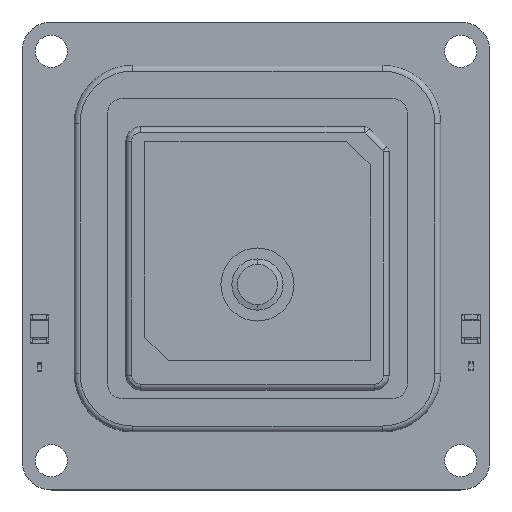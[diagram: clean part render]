
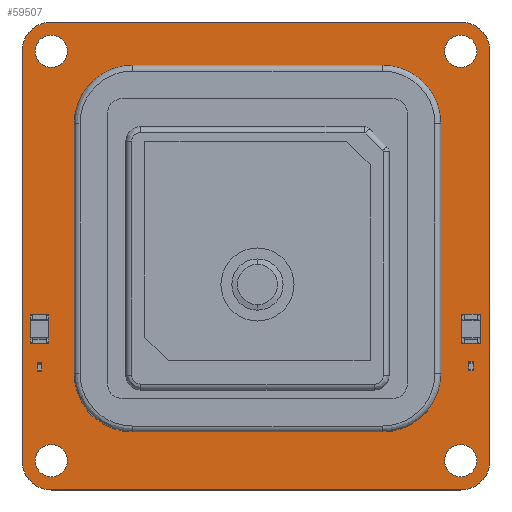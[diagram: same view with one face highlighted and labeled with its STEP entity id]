
A CAD part, top view. The second image highlights one B-rep face of the part: STEP entity #59507.
In plain terms, the highlighted planar face has unit normal (0, 0, 1).
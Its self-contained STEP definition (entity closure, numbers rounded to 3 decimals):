
#59303 = VERTEX_POINT('',#59304);
#59304 = CARTESIAN_POINT('',(32.,34.,1.6));
#59310 = EDGE_CURVE('',#59303,#59311,#59313,.T.);
#59311 = VERTEX_POINT('',#59312);
#59312 = CARTESIAN_POINT('',(34.,32.,1.6));
#59313 = CIRCLE('',#59314,2.);
#59314 = AXIS2_PLACEMENT_3D('',#59315,#59316,#59317);
#59315 = CARTESIAN_POINT('',(32.,32.,1.6));
#59316 = DIRECTION('',(0.,0.,-1.));
#59317 = DIRECTION('',(0.,1.,0.));
#59345 = VERTEX_POINT('',#59346);
#59346 = CARTESIAN_POINT('',(4.,34.,1.6));
#59352 = EDGE_CURVE('',#59345,#59303,#59353,.T.);
#59353 = LINE('',#59354,#59355);
#59354 = CARTESIAN_POINT('',(4.,34.,1.6));
#59355 = VECTOR('',#59356,1.);
#59356 = DIRECTION('',(1.,0.,0.));
#59374 = EDGE_CURVE('',#59311,#59375,#59377,.T.);
#59375 = VERTEX_POINT('',#59376);
#59376 = CARTESIAN_POINT('',(34.,4.,1.6));
#59377 = LINE('',#59378,#59379);
#59378 = CARTESIAN_POINT('',(34.,32.,1.6));
#59379 = VECTOR('',#59380,1.);
#59380 = DIRECTION('',(0.,-1.,0.));
#59507 = ADVANCED_FACE('',(#59508,#59554,#59565,#59576,#59587,#59598),
  #59609,.T.);
#59508 = FACE_BOUND('',#59509,.T.);
#59509 = EDGE_LOOP('',(#59510,#59511,#59512,#59521,#59529,#59538,#59546,
    #59553));
#59510 = ORIENTED_EDGE('',*,*,#59310,.F.);
#59511 = ORIENTED_EDGE('',*,*,#59352,.F.);
#59512 = ORIENTED_EDGE('',*,*,#59513,.F.);
#59513 = EDGE_CURVE('',#59514,#59345,#59516,.T.);
#59514 = VERTEX_POINT('',#59515);
#59515 = CARTESIAN_POINT('',(2.,32.,1.6));
#59516 = CIRCLE('',#59517,2.);
#59517 = AXIS2_PLACEMENT_3D('',#59518,#59519,#59520);
#59518 = CARTESIAN_POINT('',(4.,32.,1.6));
#59519 = DIRECTION('',(0.,0.,-1.));
#59520 = DIRECTION('',(-1.,0.,-0.));
#59521 = ORIENTED_EDGE('',*,*,#59522,.F.);
#59522 = EDGE_CURVE('',#59523,#59514,#59525,.T.);
#59523 = VERTEX_POINT('',#59524);
#59524 = CARTESIAN_POINT('',(2.,4.,1.6));
#59525 = LINE('',#59526,#59527);
#59526 = CARTESIAN_POINT('',(2.,4.,1.6));
#59527 = VECTOR('',#59528,1.);
#59528 = DIRECTION('',(0.,1.,0.));
#59529 = ORIENTED_EDGE('',*,*,#59530,.F.);
#59530 = EDGE_CURVE('',#59531,#59523,#59533,.T.);
#59531 = VERTEX_POINT('',#59532);
#59532 = CARTESIAN_POINT('',(4.,2.,1.6));
#59533 = CIRCLE('',#59534,2.);
#59534 = AXIS2_PLACEMENT_3D('',#59535,#59536,#59537);
#59535 = CARTESIAN_POINT('',(4.,4.,1.6));
#59536 = DIRECTION('',(0.,0.,-1.));
#59537 = DIRECTION('',(0.,-1.,0.));
#59538 = ORIENTED_EDGE('',*,*,#59539,.F.);
#59539 = EDGE_CURVE('',#59540,#59531,#59542,.T.);
#59540 = VERTEX_POINT('',#59541);
#59541 = CARTESIAN_POINT('',(32.,2.,1.6));
#59542 = LINE('',#59543,#59544);
#59543 = CARTESIAN_POINT('',(32.,2.,1.6));
#59544 = VECTOR('',#59545,1.);
#59545 = DIRECTION('',(-1.,0.,0.));
#59546 = ORIENTED_EDGE('',*,*,#59547,.F.);
#59547 = EDGE_CURVE('',#59375,#59540,#59548,.T.);
#59548 = CIRCLE('',#59549,2.);
#59549 = AXIS2_PLACEMENT_3D('',#59550,#59551,#59552);
#59550 = CARTESIAN_POINT('',(32.,4.,1.6));
#59551 = DIRECTION('',(0.,0.,-1.));
#59552 = DIRECTION('',(1.,0.,0.));
#59553 = ORIENTED_EDGE('',*,*,#59374,.F.);
#59554 = FACE_BOUND('',#59555,.T.);
#59555 = EDGE_LOOP('',(#59556));
#59556 = ORIENTED_EDGE('',*,*,#59557,.T.);
#59557 = EDGE_CURVE('',#59558,#59558,#59560,.T.);
#59558 = VERTEX_POINT('',#59559);
#59559 = CARTESIAN_POINT('',(4.,2.9,1.6));
#59560 = CIRCLE('',#59561,1.1);
#59561 = AXIS2_PLACEMENT_3D('',#59562,#59563,#59564);
#59562 = CARTESIAN_POINT('',(4.,4.,1.6));
#59563 = DIRECTION('',(-0.,0.,-1.));
#59564 = DIRECTION('',(-0.,-1.,0.));
#59565 = FACE_BOUND('',#59566,.T.);
#59566 = EDGE_LOOP('',(#59567));
#59567 = ORIENTED_EDGE('',*,*,#59568,.T.);
#59568 = EDGE_CURVE('',#59569,#59569,#59571,.T.);
#59569 = VERTEX_POINT('',#59570);
#59570 = CARTESIAN_POINT('',(32.,2.9,1.6));
#59571 = CIRCLE('',#59572,1.1);
#59572 = AXIS2_PLACEMENT_3D('',#59573,#59574,#59575);
#59573 = CARTESIAN_POINT('',(32.,4.,1.6));
#59574 = DIRECTION('',(-0.,0.,-1.));
#59575 = DIRECTION('',(-0.,-1.,0.));
#59576 = FACE_BOUND('',#59577,.T.);
#59577 = EDGE_LOOP('',(#59578));
#59578 = ORIENTED_EDGE('',*,*,#59579,.T.);
#59579 = EDGE_CURVE('',#59580,#59580,#59582,.T.);
#59580 = VERTEX_POINT('',#59581);
#59581 = CARTESIAN_POINT('',(18.1,15.485,1.6));
#59582 = CIRCLE('',#59583,0.515);
#59583 = AXIS2_PLACEMENT_3D('',#59584,#59585,#59586);
#59584 = CARTESIAN_POINT('',(18.1,16.,1.6));
#59585 = DIRECTION('',(-0.,0.,-1.));
#59586 = DIRECTION('',(-0.,-1.,0.));
#59587 = FACE_BOUND('',#59588,.T.);
#59588 = EDGE_LOOP('',(#59589));
#59589 = ORIENTED_EDGE('',*,*,#59590,.T.);
#59590 = EDGE_CURVE('',#59591,#59591,#59593,.T.);
#59591 = VERTEX_POINT('',#59592);
#59592 = CARTESIAN_POINT('',(4.,30.9,1.6));
#59593 = CIRCLE('',#59594,1.1);
#59594 = AXIS2_PLACEMENT_3D('',#59595,#59596,#59597);
#59595 = CARTESIAN_POINT('',(4.,32.,1.6));
#59596 = DIRECTION('',(-0.,0.,-1.));
#59597 = DIRECTION('',(-0.,-1.,0.));
#59598 = FACE_BOUND('',#59599,.T.);
#59599 = EDGE_LOOP('',(#59600));
#59600 = ORIENTED_EDGE('',*,*,#59601,.T.);
#59601 = EDGE_CURVE('',#59602,#59602,#59604,.T.);
#59602 = VERTEX_POINT('',#59603);
#59603 = CARTESIAN_POINT('',(32.,30.9,1.6));
#59604 = CIRCLE('',#59605,1.1);
#59605 = AXIS2_PLACEMENT_3D('',#59606,#59607,#59608);
#59606 = CARTESIAN_POINT('',(32.,32.,1.6));
#59607 = DIRECTION('',(-0.,0.,-1.));
#59608 = DIRECTION('',(-0.,-1.,0.));
#59609 = PLANE('',#59610);
#59610 = AXIS2_PLACEMENT_3D('',#59611,#59612,#59613);
#59611 = CARTESIAN_POINT('',(0.,0.,1.6));
#59612 = DIRECTION('',(0.,0.,1.));
#59613 = DIRECTION('',(1.,0.,-0.));
